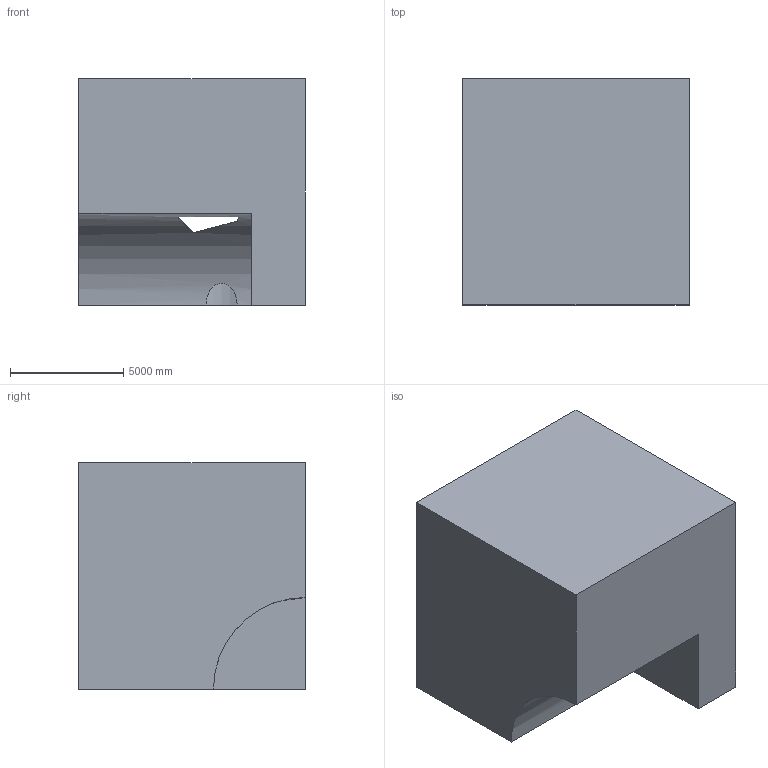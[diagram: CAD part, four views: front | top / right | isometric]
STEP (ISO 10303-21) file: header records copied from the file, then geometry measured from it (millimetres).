
FILE_DESCRIPTION (( 'STEP AP203' ), '1' );
FILE_NAME ('266.STEP', '2022-09-07T12:31:16', ( 'user' ), ( '' ), 'SwSTEP 2.0', 'SolidWorks 2021', '' );
FILE_SCHEMA (( 'CONFIG_CONTROL_DESIGN' ));
Length unit declared in the file: centimetre
Products named in the file (1): 266
Bounding box: 10000 x 10000 x 10000 mm (x, y, z)
Volume: 751166095733.5 mm3; surface area: 733350288.5 mm2
Topology: 1 solids, 1 shells, 24 faces, 69 edges, 46 vertices
Faces by surface type: plane 21, cylinder 3
Entity records: 996 total; most frequent: CARTESIAN_POINT 292, ORIENTED_EDGE 138, DIRECTION 120, EDGE_CURVE 69, LINE 52, VECTOR 52, VERTEX_POINT 46, AXIS2_PLACEMENT_3D 34
